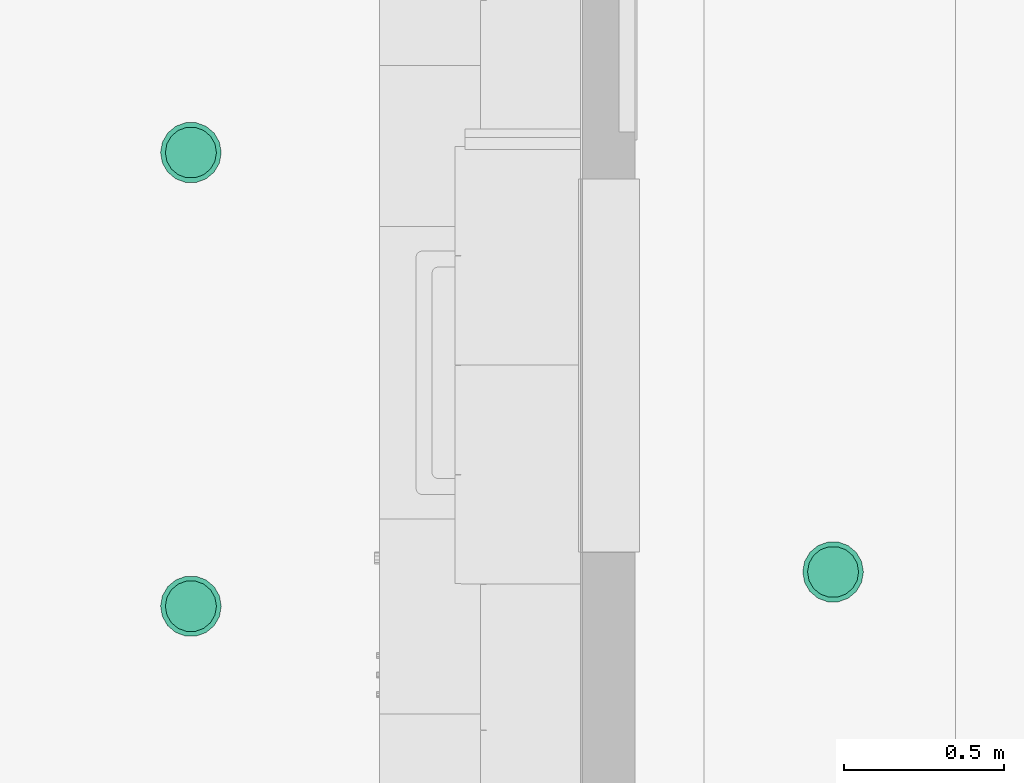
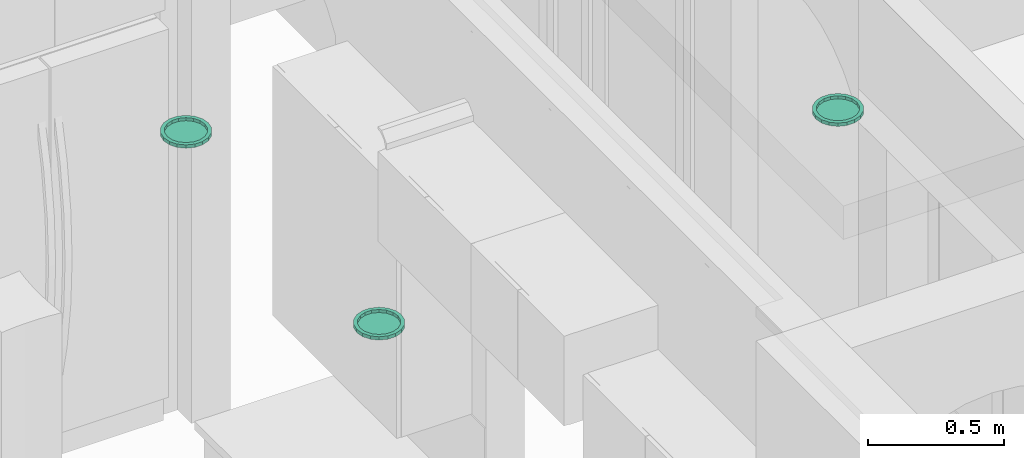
# One storey, part 48 of 77: 3 flow terminals.
"""IFC2X3 building model written with IfcOpenShell, lengths in inches."""

from ifc_helpers import new_model, entity, si_unit, converted_unit, derived_unit, money_unit, direction, frame, origin_with_axes, place, context, subcontext, project, spatial, open_shell, faceted_brep, surface_model, source, transform, mapped, type_object, element, save


model = new_model("IFC2X3")

# Units and contexts
model_context = context("Model", 3, precision=0.000393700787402, world=origin_with_axes(), true_north=direction((0.0, 1.0)))
body_context = subcontext(model_context, "Body", "Model", "MODEL_VIEW")
ifc_project = project(units=[converted_unit("LENGTHUNIT", "INCH", entity("IfcPositiveLengthMeasure", 0.0254), si_unit("LENGTHUNIT", "METRE"), dimensions=[1, 0, 0, 0, 0, 0, 0]), converted_unit("AREAUNIT", "SQUARE_FOOT", entity("IfcPositiveLengthMeasure", 0.09290304), si_unit("AREAUNIT", "SQUARE_METRE"), dimensions=[2, 0, 0, 0, 0, 0, 0]), si_unit("PLANEANGLEUNIT", "RADIAN"), si_unit("SOLIDANGLEUNIT", "STERADIAN"), money_unit("USD"), converted_unit("TIMEUNIT", "Year", entity("IfcTimeMeasure", 31556926.0), si_unit("TIMEUNIT", "SECOND"), dimensions=[0, 0, 1, 0, 0, 0, 0]), si_unit("MASSUNIT", "GRAM", prefix="KILO"), si_unit("THERMODYNAMICTEMPERATUREUNIT", "DEGREE_CELSIUS"), si_unit("LUMINOUSINTENSITYUNIT", "LUMEN"), si_unit("ENERGYUNIT", "JOULE", prefix="MEGA"), derived_unit("THERMALCONDUCTANCEUNIT", [(si_unit("POWERUNIT", "WATT"), 1), (si_unit("LENGTHUNIT", "METRE"), -1), (si_unit("THERMODYNAMICTEMPERATUREUNIT", "KELVIN"), -1)]), derived_unit("SPECIFICHEATCAPACITYUNIT", [(si_unit("ENERGYUNIT", "JOULE"), 1), (si_unit("MASSUNIT", "GRAM", prefix="KILO"), -1), (si_unit("THERMODYNAMICTEMPERATUREUNIT", "KELVIN"), -1)]), derived_unit("MASSDENSITYUNIT", [(si_unit("MASSUNIT", "GRAM", prefix="KILO"), 1), (si_unit("VOLUMEUNIT", "CUBIC_METRE"), -1)])], contexts=[model_context])

# Site, building, storey
site_placement = place(None, origin_with_axes())
site = spatial("IfcSite", under=ifc_project, at=site_placement, Name="Site", CompositionType="ELEMENT")
building_placement = place(site_placement, origin_with_axes())
building = spatial("IfcBuilding", under=site, at=building_placement, Name="Building", CompositionType="ELEMENT")
storey_placement = place(building_placement, frame((0.0, 0.0, 127.952755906), z_axis=(0.0, 0.0, 1.0), x_axis=(1.0, 0.0, 0.0)))
storey = spatial("IfcBuildingStorey", under=building, at=storey_placement, Name="Second Floor", CompositionType="ELEMENT", Elevation=127.953)

# Flow terminals
light_fixture_type = type_object("IfcLightFixtureType", Name="Recessed Spot 25", PredefinedType="NOTDEFINED")
shared_shape = source(origin_with_axes(), body_context, "Body", "SurfaceModel", [
    faceted_brep([(3.74015748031, 0.0, -0.590551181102), (3.51459838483, 1.27920919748, -0.590551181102), (3.51459838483, 1.27920919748, 0.0), (3.74015748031, 0.0, 0.0), (3.51459838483, -1.27920919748, -0.590551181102), (2.86512685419, -2.40412688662, -0.590551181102), (1.87007874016, -3.23907139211, -0.590551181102), (0.649471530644, -3.6833360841, -0.590551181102), (-0.649471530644, -3.6833360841, -0.590551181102), (-1.87007874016, -3.23907139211, -0.590551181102), (-2.86512685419, -2.40412688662, -0.590551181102), (-3.51459838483, -1.27920919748, -0.590551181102), (-3.74015748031, 0.0, -0.590551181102), (-3.51459838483, 1.27920919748, -0.590551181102), (-2.86512685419, 2.40412688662, -0.590551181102), (-1.87007874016, 3.23907139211, -0.590551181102), (-0.649471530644, 3.6833360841, -0.590551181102), (0.649471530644, 3.6833360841, -0.590551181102), (1.87007874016, 3.23907139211, -0.590551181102), (2.86512685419, 2.40412688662, -0.590551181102), (3.14960629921, 0.0, -0.590551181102), (2.95966179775, 1.07722879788, -0.590551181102), (2.41273840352, 2.02452790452, -0.590551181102), (1.57480314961, 2.72763906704, -0.590551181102), (0.546923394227, 3.1017567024, -0.590551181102), (-0.546923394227, 3.1017567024, -0.590551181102), (-1.57480314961, 2.72763906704, -0.590551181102), (-2.41273840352, 2.02452790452, -0.590551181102), (-2.95966179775, 1.07722879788, -0.590551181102), (-3.14960629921, 0.0, -0.590551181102), (-2.95966179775, -1.07722879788, -0.590551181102), (-2.41273840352, -2.02452790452, -0.590551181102), (-1.57480314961, -2.72763906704, -0.590551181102), (-0.546923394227, -3.1017567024, -0.590551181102), (0.546923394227, -3.1017567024, -0.590551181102), (1.57480314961, -2.72763906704, -0.590551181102), (2.41273840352, -2.02452790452, -0.590551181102), (2.95966179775, -1.07722879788, -0.590551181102), (2.86512685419, 2.40412688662, 0.0), (1.87007874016, 3.23907139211, 0.0), (0.649471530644, 3.6833360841, 0.0), (-0.649471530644, 3.6833360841, 0.0), (-1.87007874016, 3.23907139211, 0.0), (-2.86512685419, 2.40412688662, 0.0), (-3.51459838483, 1.27920919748, 0.0), (-3.74015748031, 0.0, 0.0), (-3.51459838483, -1.27920919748, 0.0), (-2.86512685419, -2.40412688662, 0.0), (-1.87007874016, -3.23907139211, 0.0), (-0.649471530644, -3.6833360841, 0.0), (0.649471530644, -3.6833360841, 0.0), (1.87007874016, -3.23907139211, 0.0), (2.86512685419, -2.40412688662, 0.0), (3.51459838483, -1.27920919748, 0.0), (3.14960629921, 0.0, 0.0), (2.95966179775, -1.07722879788, 0.0), (2.41273840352, -2.02452790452, 0.0), (1.57480314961, -2.72763906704, 0.0), (0.546923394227, -3.1017567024, 0.0), (-0.546923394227, -3.1017567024, 0.0), (-1.57480314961, -2.72763906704, 0.0), (-2.41273840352, -2.02452790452, 0.0), (-2.95966179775, -1.07722879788, 0.0), (-3.14960629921, 0.0, 0.0), (-2.95966179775, 1.07722879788, 0.0), (-2.41273840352, 2.02452790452, 0.0), (-1.57480314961, 2.72763906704, 0.0), (-0.546923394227, 3.1017567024, 0.0), (0.546923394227, 3.1017567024, 0.0), (1.57480314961, 2.72763906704, 0.0), (2.41273840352, 2.02452790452, 0.0), (2.95966179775, 1.07722879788, 0.0)], [[[0, 1, 2, 3]], [[0, 4, 5, 6, 7, 8, 9, 10, 11, 12, 13, 14, 15, 16, 17, 18, 19, 1], [20, 21, 22, 23, 24, 25, 26, 27, 28, 29, 30, 31, 32, 33, 34, 35, 36, 37]], [[1, 19, 38, 2]], [[3, 2, 38, 39, 40, 41, 42, 43, 44, 45, 46, 47, 48, 49, 50, 51, 52, 53], [54, 55, 56, 57, 58, 59, 60, 61, 62, 63, 64, 65, 66, 67, 68, 69, 70, 71]], [[4, 0, 3, 53]], [[5, 4, 53, 52]], [[6, 5, 52, 51]], [[7, 6, 51, 50]], [[8, 7, 50, 49]], [[9, 8, 49, 48]], [[10, 9, 48, 47]], [[11, 10, 47, 46]], [[12, 11, 46, 45]], [[13, 12, 45, 44]], [[14, 13, 44, 43]], [[15, 14, 43, 42]], [[16, 15, 42, 41]], [[17, 16, 41, 40]], [[18, 17, 40, 39]], [[19, 18, 39, 38]], [[21, 20, 54, 71]], [[22, 21, 71, 70]], [[23, 22, 70, 69]], [[24, 23, 69, 68]], [[25, 24, 68, 67]], [[26, 25, 67, 66]], [[27, 26, 66, 65]], [[28, 27, 65, 64]], [[29, 28, 64, 63]], [[30, 29, 63, 62]], [[31, 30, 62, 61]], [[32, 31, 61, 60]], [[33, 32, 60, 59]], [[34, 33, 59, 58]], [[35, 34, 58, 57]], [[36, 35, 57, 56]], [[37, 36, 56, 55]], [[20, 37, 55, 54]]]),
    surface_model("IfcShellBasedSurfaceModel", [(3.14960629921, 0.0, -0.527559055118), (2.95966179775, -1.07722879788, -0.527559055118), (2.41273840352, -2.02452790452, -0.527559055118), (1.57480314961, -2.72763906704, -0.527559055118), (0.546923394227, -3.1017567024, -0.527559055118), (-0.546923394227, -3.1017567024, -0.527559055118), (-1.57480314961, -2.72763906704, -0.527559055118), (-2.41273840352, -2.02452790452, -0.527559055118), (-2.95966179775, -1.07722879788, -0.527559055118), (-3.14960629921, 0.0, -0.527559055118), (-2.95966179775, 1.07722879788, -0.527559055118), (-2.41273840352, 2.02452790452, -0.527559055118), (-1.57480314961, 2.72763906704, -0.527559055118), (-0.546923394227, 3.1017567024, -0.527559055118), (0.546923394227, 3.1017567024, -0.527559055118), (1.57480314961, 2.72763906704, -0.527559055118), (2.41273840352, 2.02452790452, -0.527559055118), (2.95966179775, 1.07722879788, -0.527559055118)], [open_shell([[[0, 1, 2, 3, 4, 5, 6, 7, 8, 9, 10, 11, 12, 13, 14, 15, 16, 17]]])]),
])
for number, where, z_axis, x_axis, name in (
    (1, (589.239523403, 243.244933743, 118.503937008), (0.0, 0.0, 1.0), (1.0, 0.0, 0.0), "L-03"),
    (2, (589.239523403, 299.150445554, 118.503937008), (0.0, 0.0, 1.0), (1.0, 0.0, 0.0), "L-03"),
    (3, (668.374915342, 247.470164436, 126.0), (0.0, 0.0, 1.0), (1.0, 0.0, 0.0), "L-03"),
):
    element("IfcFlowTerminal", number, at=place(storey_placement, frame(where, z_axis=z_axis, x_axis=x_axis)), inside=storey, type_object=light_fixture_type, Name=name, context=body_context, shape_type="MappedRepresentation", body=[
        mapped(shared_shape, transform((0.0, 0.0, 0.0))),
    ])

save(model, "model.ifc")
